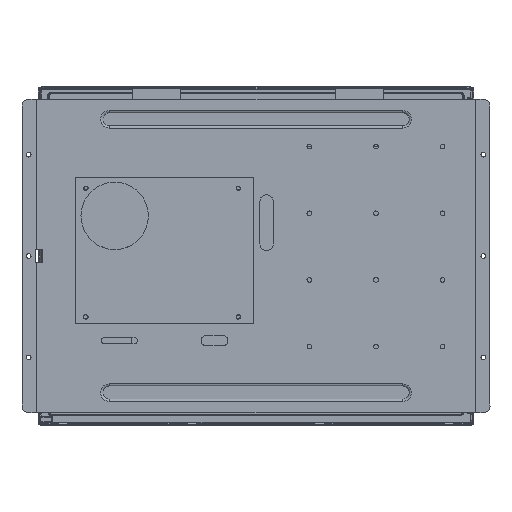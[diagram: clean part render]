
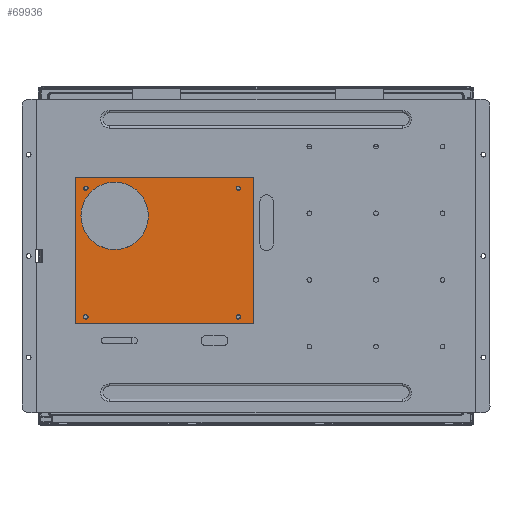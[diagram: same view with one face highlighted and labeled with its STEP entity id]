
A CAD part, top view. The second image highlights one B-rep face of the part: STEP entity #69936.
In plain terms, the highlighted planar face has unit normal (0, 0, 1).
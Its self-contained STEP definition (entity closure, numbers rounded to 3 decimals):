
#66579=DIRECTION('',(0.,1.,0.));
#66580=VECTOR('',#66579,109.68);
#66581=CARTESIAN_POINT('',(307.179,358.607,0.));
#66582=LINE('',#66581,#66580);
#66586=DIRECTION('',(1.,0.,0.));
#66587=VECTOR('',#66586,133.508);
#66588=CARTESIAN_POINT('',(307.179,468.287,0.));
#66589=LINE('',#66588,#66587);
#66593=DIRECTION('',(0.,-1.,0.));
#66594=VECTOR('',#66593,109.68);
#66595=CARTESIAN_POINT('',(440.687,468.287,0.));
#66596=LINE('',#66595,#66594);
#66600=DIRECTION('',(-1.,0.,0.));
#66601=VECTOR('',#66600,133.508);
#66602=CARTESIAN_POINT('',(440.687,358.607,0.));
#66603=LINE('',#66602,#66601);
#66607=CARTESIAN_POINT('',(315.29,460.187,0.));
#66608=DIRECTION('',(0.,0.,1.));
#66609=DIRECTION('',(-1.,0.,0.));
#66610=AXIS2_PLACEMENT_3D('',#66607,#66608,#66609);
#66615=CARTESIAN_POINT('',(315.29,460.187,0.));
#66616=DIRECTION('',(0.,0.,1.));
#66617=DIRECTION('',(1.,0.,0.));
#66618=AXIS2_PLACEMENT_3D('',#66615,#66616,#66617);
#66623=CARTESIAN_POINT('',(315.29,363.687,0.));
#66624=DIRECTION('',(0.,0.,1.));
#66625=DIRECTION('',(-1.,0.,0.));
#66626=AXIS2_PLACEMENT_3D('',#66623,#66624,#66625);
#66631=CARTESIAN_POINT('',(315.29,363.687,0.));
#66632=DIRECTION('',(0.,0.,1.));
#66633=DIRECTION('',(1.,0.,0.));
#66634=AXIS2_PLACEMENT_3D('',#66631,#66632,#66633);
#66639=CARTESIAN_POINT('',(429.59,363.677,0.));
#66640=DIRECTION('',(0.,0.,1.));
#66641=DIRECTION('',(-1.,0.,0.));
#66642=AXIS2_PLACEMENT_3D('',#66639,#66640,#66641);
#66647=CARTESIAN_POINT('',(429.59,363.677,0.));
#66648=DIRECTION('',(0.,0.,1.));
#66649=DIRECTION('',(1.,0.,0.));
#66650=AXIS2_PLACEMENT_3D('',#66647,#66648,#66649);
#66655=CARTESIAN_POINT('',(429.59,460.187,0.));
#66656=DIRECTION('',(0.,0.,1.));
#66657=DIRECTION('',(-1.,0.,0.));
#66658=AXIS2_PLACEMENT_3D('',#66655,#66656,#66657);
#66663=CARTESIAN_POINT('',(429.59,460.187,0.));
#66664=DIRECTION('',(0.,0.,1.));
#66665=DIRECTION('',(1.,0.,0.));
#66666=AXIS2_PLACEMENT_3D('',#66663,#66664,#66665);
#66671=CARTESIAN_POINT('',(336.906,439.496,0.));
#66672=DIRECTION('',(0.,0.,1.));
#66673=DIRECTION('',(1.,0.,0.));
#66674=AXIS2_PLACEMENT_3D('',#66671,#66672,#66673);
#66679=CARTESIAN_POINT('',(336.906,439.496,0.));
#66680=DIRECTION('',(0.,0.,1.));
#66681=DIRECTION('',(-1.,0.,0.));
#66682=AXIS2_PLACEMENT_3D('',#66679,#66680,#66681);
#67649=CARTESIAN_POINT('',(307.179,358.607,0.));
#67650=CARTESIAN_POINT('',(307.179,468.287,0.));
#67651=VERTEX_POINT('',#67649);
#67652=VERTEX_POINT('',#67650);
#67653=CARTESIAN_POINT('',(440.687,468.287,0.));
#67654=VERTEX_POINT('',#67653);
#67655=CARTESIAN_POINT('',(440.687,358.607,0.));
#67656=VERTEX_POINT('',#67655);
#67657=CARTESIAN_POINT('',(313.64,460.187,0.));
#67658=CARTESIAN_POINT('',(316.94,460.187,0.));
#67659=VERTEX_POINT('',#67657);
#67660=VERTEX_POINT('',#67658);
#67661=CARTESIAN_POINT('',(313.64,363.687,0.));
#67662=CARTESIAN_POINT('',(316.94,363.687,0.));
#67663=VERTEX_POINT('',#67661);
#67664=VERTEX_POINT('',#67662);
#67665=CARTESIAN_POINT('',(427.94,363.677,0.));
#67666=CARTESIAN_POINT('',(431.24,363.677,0.));
#67667=VERTEX_POINT('',#67665);
#67668=VERTEX_POINT('',#67666);
#67669=CARTESIAN_POINT('',(427.94,460.187,0.));
#67670=CARTESIAN_POINT('',(431.24,460.187,0.));
#67671=VERTEX_POINT('',#67669);
#67672=VERTEX_POINT('',#67670);
#67673=CARTESIAN_POINT('',(362.193,439.496,0.));
#67674=CARTESIAN_POINT('',(311.619,439.496,0.));
#67675=VERTEX_POINT('',#67673);
#67676=VERTEX_POINT('',#67674);
#69892=CARTESIAN_POINT('',(0.,0.,0.));
#69893=DIRECTION('',(0.,0.,1.));
#69894=DIRECTION('',(1.,0.,0.));
#69895=AXIS2_PLACEMENT_3D('',#69892,#69893,#69894);
#69896=PLANE('',#69895);
#69897=ORIENTED_EDGE('',*,*,#69882,.T.);
#69899=ORIENTED_EDGE('',*,*,#69898,.T.);
#69901=ORIENTED_EDGE('',*,*,#69900,.T.);
#69903=ORIENTED_EDGE('',*,*,#69902,.T.);
#69904=EDGE_LOOP('',(#69897,#69899,#69901,#69903));
#69905=FACE_OUTER_BOUND('',#69904,.F.);
#69907=ORIENTED_EDGE('',*,*,#69906,.T.);
#69909=ORIENTED_EDGE('',*,*,#69908,.T.);
#69910=EDGE_LOOP('',(#69907,#69909));
#69911=FACE_BOUND('',#69910,.F.);
#69913=ORIENTED_EDGE('',*,*,#69912,.T.);
#69915=ORIENTED_EDGE('',*,*,#69914,.T.);
#69916=EDGE_LOOP('',(#69913,#69915));
#69917=FACE_BOUND('',#69916,.F.);
#69919=ORIENTED_EDGE('',*,*,#69918,.T.);
#69921=ORIENTED_EDGE('',*,*,#69920,.T.);
#69922=EDGE_LOOP('',(#69919,#69921));
#69923=FACE_BOUND('',#69922,.F.);
#69925=ORIENTED_EDGE('',*,*,#69924,.T.);
#69927=ORIENTED_EDGE('',*,*,#69926,.T.);
#69928=EDGE_LOOP('',(#69925,#69927));
#69929=FACE_BOUND('',#69928,.F.);
#69931=ORIENTED_EDGE('',*,*,#69930,.T.);
#69933=ORIENTED_EDGE('',*,*,#69932,.T.);
#69934=EDGE_LOOP('',(#69931,#69933));
#69935=FACE_BOUND('',#69934,.F.);
#66611=CIRCLE('',#66610,1.65);
#66619=CIRCLE('',#66618,1.65);
#66627=CIRCLE('',#66626,1.65);
#66635=CIRCLE('',#66634,1.65);
#66643=CIRCLE('',#66642,1.65);
#66651=CIRCLE('',#66650,1.65);
#66659=CIRCLE('',#66658,1.65);
#66667=CIRCLE('',#66666,1.65);
#66675=CIRCLE('',#66674,25.287);
#66683=CIRCLE('',#66682,25.287);
#69882=EDGE_CURVE('',#67651,#67652,#66582,.T.);
#69898=EDGE_CURVE('',#67652,#67654,#66589,.T.);
#69900=EDGE_CURVE('',#67654,#67656,#66596,.T.);
#69902=EDGE_CURVE('',#67656,#67651,#66603,.T.);
#69906=EDGE_CURVE('',#67659,#67660,#66611,.T.);
#69908=EDGE_CURVE('',#67660,#67659,#66619,.T.);
#69912=EDGE_CURVE('',#67663,#67664,#66627,.T.);
#69914=EDGE_CURVE('',#67664,#67663,#66635,.T.);
#69918=EDGE_CURVE('',#67667,#67668,#66643,.T.);
#69920=EDGE_CURVE('',#67668,#67667,#66651,.T.);
#69924=EDGE_CURVE('',#67671,#67672,#66659,.T.);
#69926=EDGE_CURVE('',#67672,#67671,#66667,.T.);
#69930=EDGE_CURVE('',#67675,#67676,#66675,.T.);
#69932=EDGE_CURVE('',#67676,#67675,#66683,.T.);
#69936=ADVANCED_FACE('',(#69905,#69911,#69917,#69923,#69929,#69935),#69896,.T.);
